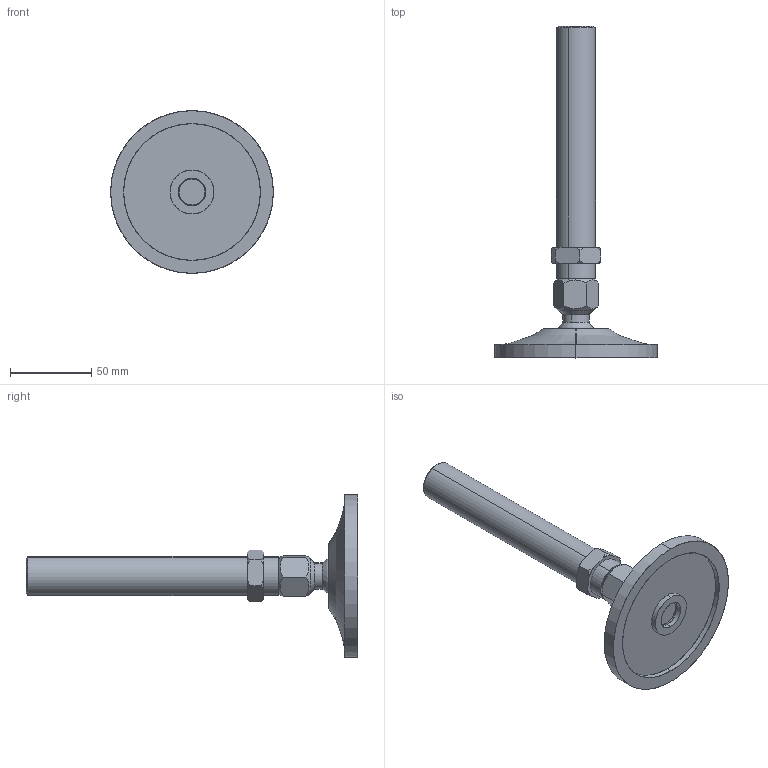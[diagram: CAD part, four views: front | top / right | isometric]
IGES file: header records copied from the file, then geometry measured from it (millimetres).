
Start section: SolidWorks IGES file using analytic representation for surfaces
Global section: file name: C:\Documents and Settings\URETIM3\Desktop\yeni katalog tolgay düzenli\A kataloðu\pabuc,saplama montajlarý\507-560 ÇELÝK PASLANMAZ TABANLI VE MÝLLÝ MAFSALLI PABUÇ MONTAJLARI\... 102 421.IGS; native system: SolidWorks 2006 by SolidWorks Corporation; preprocessor: SolidWorks 2006 by SolidWorks Corporation; author: URETIM3; date: 060911.173357; units: millimetre
Bounding box: 100 x 204 x 100 mm (x, y, z)
Surface area: 37598 mm2 (no closed solid volume)
Topology: 0 solids, 0 shells, 61 faces, 1084 edges, 1084 vertices
Faces by surface type: revolution 36, bspline 25
